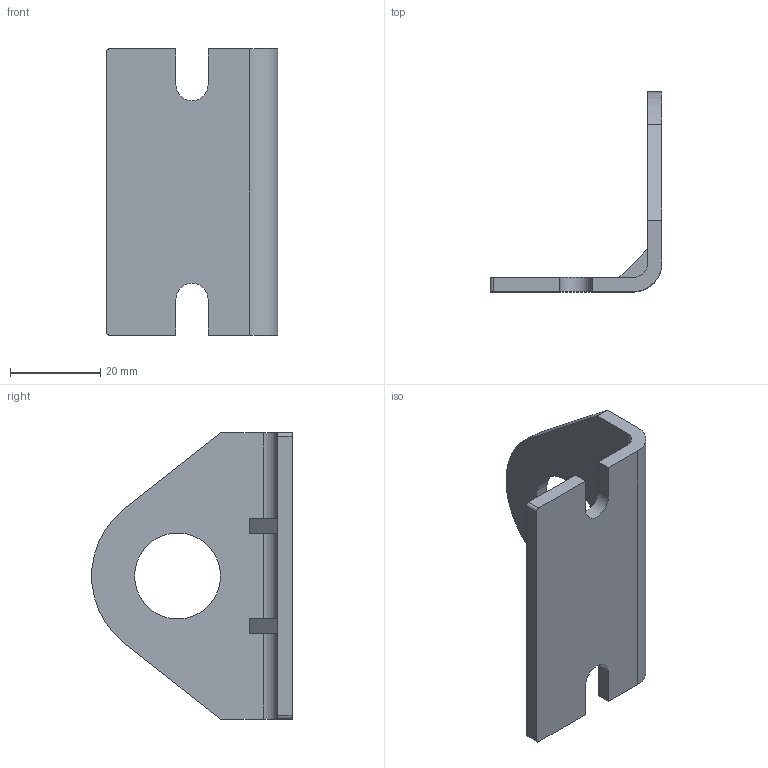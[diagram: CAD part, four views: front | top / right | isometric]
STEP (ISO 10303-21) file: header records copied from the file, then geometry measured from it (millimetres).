
FILE_DESCRIPTION((''),'2;1');
FILE_NAME('M117007','2018-02-28T',('MeFernandez'),('ASCO Numatics'),'PRO/ENGINEER BY PARAMETRIC TECHNOLOGY CORPORATION, 2015030','PRO/ENGINEER BY PARAMETRIC TECHNOLOGY CORPORATION, 2015030','');
FILE_SCHEMA(('CONFIG_CONTROL_DESIGN'));
Length unit declared in the file: inch
Products named in the file (1): M117007
Bounding box: 38.1 x 44.39 x 63.5 mm (x, y, z)
Volume: 12191.3 mm3; surface area: 8772.3 mm2
Topology: 1 solids, 1 shells, 32 faces, 90 edges, 60 vertices
Faces by surface type: plane 21, cylinder 11
Entity records: 1080 total; most frequent: CARTESIAN_POINT 182, ORIENTED_EDGE 180, DIRECTION 176, EDGE_CURVE 90, VECTOR 68, LINE 68, VERTEX_POINT 60, AXIS2_PLACEMENT_3D 54
